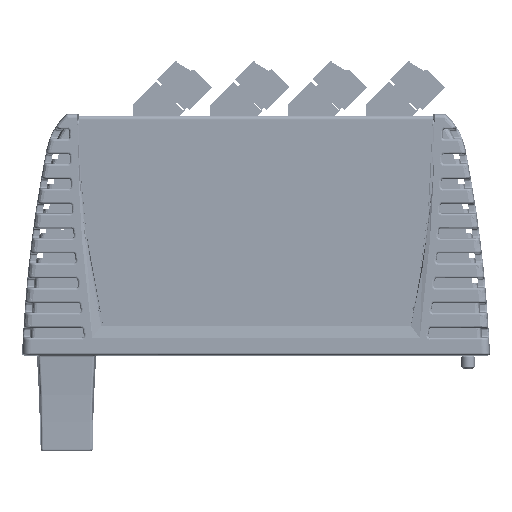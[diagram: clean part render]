
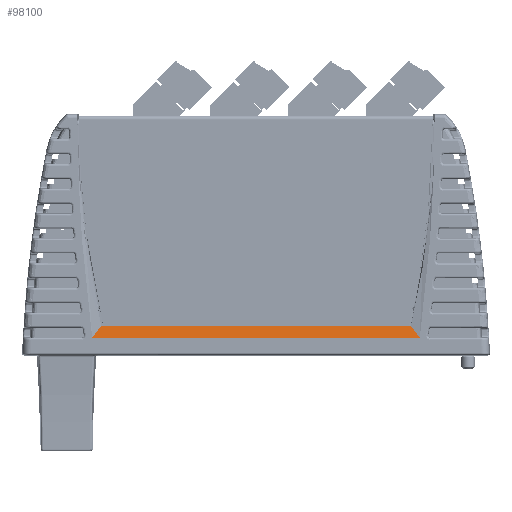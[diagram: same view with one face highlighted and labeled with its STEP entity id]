
A CAD part, left-side view. The second image highlights one B-rep face of the part: STEP entity #98100.
In plain terms, the highlighted planar face has unit normal (-0.986, 0, 0.164).
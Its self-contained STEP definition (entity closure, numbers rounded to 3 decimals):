
#6032 = EDGE_CURVE ( 'NONE', #69984, #102446, #214077, .T. ) ;
#11551 = VECTOR ( 'NONE', #81809, 1000. ) ;
#13543 = CARTESIAN_POINT ( 'NONE',  ( -8.7, 13.75, -27.5 ) ) ;
#14391 = DIRECTION ( 'NONE',  ( 0., -1., 0. ) ) ;
#17039 = ORIENTED_EDGE ( 'NONE', *, *, #42062, .T. ) ;
#30962 = CARTESIAN_POINT ( 'NONE',  ( -8.7, -41.25, -27.5 ) ) ;
#35577 = DIRECTION ( 'NONE',  ( 0.986, 0., -0.164 ) ) ;
#42062 = EDGE_CURVE ( 'NONE', #136636, #102446, #63720, .T. ) ;
#51922 = LINE ( 'NONE', #152011, #11551 ) ;
#56254 = ORIENTED_EDGE ( 'NONE', *, *, #6032, .F. ) ;
#58688 = ORIENTED_EDGE ( 'NONE', *, *, #192148, .T. ) ;
#63720 = B_SPLINE_CURVE_WITH_KNOTS ( 'NONE', 3,
 ( #116147, #13543, #134318, #30962 ),
 .UNSPECIFIED., .F., .F.,
 ( 4, 4 ),
 ( 0., 1. ),
 .UNSPECIFIED. ) ;
#64947 = CARTESIAN_POINT ( 'NONE',  ( -8.7, -41.25, -27.5 ) ) ;
#69984 = VERTEX_POINT ( 'NONE', #205035 ) ;
#74023 = AXIS2_PLACEMENT_3D ( 'NONE', #138967, #35577, #156238 ) ;
#81809 = DIRECTION ( 'NONE',  ( -0.132, 0.595, -0.793 ) ) ;
#98100 = ADVANCED_FACE ( 'NONE', ( #122540 ), #155505, .F. ) ;
#100307 = CARTESIAN_POINT ( 'NONE',  ( -8.2, 39., -24.5 ) ) ;
#102446 = VERTEX_POINT ( 'NONE', #64947 ) ;
#108549 = EDGE_CURVE ( 'NONE', #120584, #69984, #168850, .T. ) ;
#116147 = CARTESIAN_POINT ( 'NONE',  ( -8.7, 41.25, -27.5 ) ) ;
#120584 = VERTEX_POINT ( 'NONE', #100307 ) ;
#122540 = FACE_OUTER_BOUND ( 'NONE', #156826, .T. ) ;
#130690 = CARTESIAN_POINT ( 'NONE',  ( -8.7, 41.25, -27.5 ) ) ;
#130994 = CARTESIAN_POINT ( 'NONE',  ( -8.2, -39., -24.5 ) ) ;
#131430 = CARTESIAN_POINT ( 'NONE',  ( -8.7, -41.25, -27.5 ) ) ;
#134318 = CARTESIAN_POINT ( 'NONE',  ( -8.7, -13.75, -27.5 ) ) ;
#135647 = ORIENTED_EDGE ( 'NONE', *, *, #108549, .F. ) ;
#136636 = VERTEX_POINT ( 'NONE', #130690 ) ;
#138967 = CARTESIAN_POINT ( 'NONE',  ( -8.7, 41.745, -27.5 ) ) ;
#152011 = CARTESIAN_POINT ( 'NONE',  ( -8.45, 40.125, -26. ) ) ;
#155505 = PLANE ( 'NONE',  #74023 ) ;
#156128 = CARTESIAN_POINT ( 'NONE',  ( -8.2, 0., -24.5 ) ) ;
#156238 = DIRECTION ( 'NONE',  ( 0.164, 0., 0.986 ) ) ;
#156826 = EDGE_LOOP ( 'NONE', ( #17039, #56254, #135647, #58688 ) ) ;
#163447 = VECTOR ( 'NONE', #14391, 1000. ) ;
#168850 = LINE ( 'NONE', #156128, #163447 ) ;
#192148 = EDGE_CURVE ( 'NONE', #120584, #136636, #51922, .T. ) ;
#205035 = CARTESIAN_POINT ( 'NONE',  ( -8.2, -39., -24.5 ) ) ;
#214077 = B_SPLINE_CURVE_WITH_KNOTS ( 'NONE', 1,
 ( #130994, #131430 ),
 .UNSPECIFIED., .F., .F.,
 ( 2, 2 ),
 ( 0., 1. ),
 .UNSPECIFIED. ) ;
